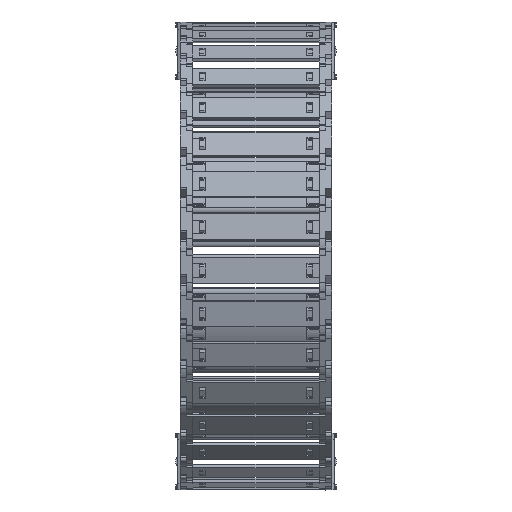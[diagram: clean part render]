
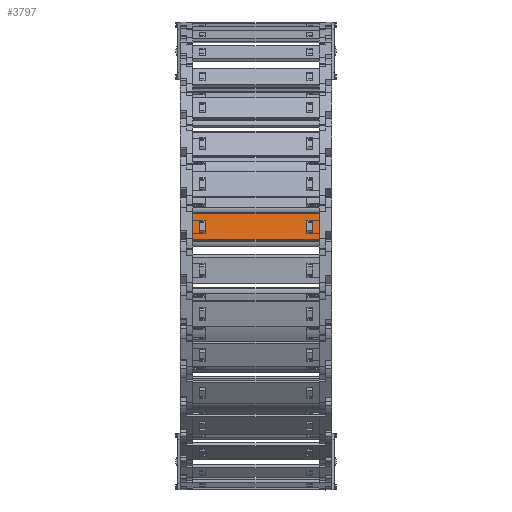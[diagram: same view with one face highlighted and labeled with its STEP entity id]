
A CAD part, top view. The second image highlights one B-rep face of the part: STEP entity #3797.
In plain terms, the highlighted planar face has unit normal (0, 0.125, 0.992) as drawn and (0, 1, 0) by its records, which use the part's own axes.
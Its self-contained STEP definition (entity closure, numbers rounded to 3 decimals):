
#2923=DIRECTION('',(0.,0.,1.));
#2924=VECTOR('',#2923,15.8);
#2925=CARTESIAN_POINT('',(62.24,1.5,-7.9));
#2926=LINE('',#2925,#2924);
#2930=DIRECTION('',(-1.,0.,0.));
#2931=VECTOR('',#2930,77.);
#2932=CARTESIAN_POINT('',(62.24,1.5,7.9));
#2933=LINE('',#2932,#2931);
#2937=DIRECTION('',(0.,0.,-1.));
#2938=VECTOR('',#2937,15.8);
#2939=CARTESIAN_POINT('',(-14.76,1.5,7.9));
#2940=LINE('',#2939,#2938);
#2944=DIRECTION('',(1.,0.,0.));
#2945=VECTOR('',#2944,3.648);
#2946=CARTESIAN_POINT('',(54.622,1.5,4.075));
#2947=LINE('',#2946,#2945);
#2951=DIRECTION('',(0.,0.,-1.));
#2952=VECTOR('',#2951,8.15);
#2953=CARTESIAN_POINT('',(58.27,1.5,4.075));
#2954=LINE('',#2953,#2952);
#2958=DIRECTION('',(-1.,0.,0.));
#2959=VECTOR('',#2958,3.648);
#2960=CARTESIAN_POINT('',(58.27,1.5,-4.075));
#2961=LINE('',#2960,#2959);
#2965=DIRECTION('',(0.,0.,-1.));
#2966=VECTOR('',#2965,8.15);
#2967=CARTESIAN_POINT('',(-7.142,1.5,4.075));
#2968=LINE('',#2967,#2966);
#2972=DIRECTION('',(-1.,0.,0.));
#2973=VECTOR('',#2972,3.648);
#2974=CARTESIAN_POINT('',(-7.142,1.5,-4.075));
#2975=LINE('',#2974,#2973);
#2979=DIRECTION('',(0.,0.,1.));
#2980=VECTOR('',#2979,8.15);
#2981=CARTESIAN_POINT('',(-10.79,1.5,-4.075));
#2982=LINE('',#2981,#2980);
#2986=DIRECTION('',(1.,0.,0.));
#2987=VECTOR('',#2986,3.648);
#2988=CARTESIAN_POINT('',(-10.79,1.5,4.075));
#2989=LINE('',#2988,#2987);
#3000=DIRECTION('',(-1.,0.,0.));
#3001=VECTOR('',#3000,77.);
#3002=CARTESIAN_POINT('',(62.24,1.5,-7.9));
#3003=LINE('',#3002,#3001);
#3208=DIRECTION('',(0.,0.,-1.));
#3209=VECTOR('',#3208,8.15);
#3210=CARTESIAN_POINT('',(54.622,1.5,4.075));
#3211=LINE('',#3210,#3209);
#3507=CARTESIAN_POINT('',(58.27,1.5,4.075));
#3508=VERTEX_POINT('',#3507);
#3509=CARTESIAN_POINT('',(54.622,1.5,4.075));
#3510=VERTEX_POINT('',#3509);
#3551=CARTESIAN_POINT('',(54.622,1.5,-4.075));
#3552=VERTEX_POINT('',#3551);
#3553=CARTESIAN_POINT('',(58.27,1.5,-4.075));
#3554=VERTEX_POINT('',#3553);
#3555=CARTESIAN_POINT('',(62.24,1.5,7.9));
#3557=VERTEX_POINT('',#3555);
#3559=CARTESIAN_POINT('',(62.24,1.5,-7.9));
#3560=VERTEX_POINT('',#3559);
#3583=CARTESIAN_POINT('',(-7.142,1.5,4.075));
#3584=CARTESIAN_POINT('',(-7.142,1.5,-4.075));
#3585=VERTEX_POINT('',#3583);
#3586=VERTEX_POINT('',#3584);
#3587=CARTESIAN_POINT('',(-10.79,1.5,-4.075));
#3588=VERTEX_POINT('',#3587);
#3589=CARTESIAN_POINT('',(-10.79,1.5,4.075));
#3590=VERTEX_POINT('',#3589);
#3591=CARTESIAN_POINT('',(-14.76,1.5,7.9));
#3592=VERTEX_POINT('',#3591);
#3595=CARTESIAN_POINT('',(-14.76,1.5,-7.9));
#3596=VERTEX_POINT('',#3595);
#3766=CARTESIAN_POINT('',(93.98,1.5,10.061));
#3767=DIRECTION('',(0.,-1.,0.));
#3768=DIRECTION('',(0.,0.,-1.));
#3769=AXIS2_PLACEMENT_3D('',#3766,#3767,#3768);
#3770=PLANE('',#3769);
#3771=ORIENTED_EDGE('',*,*,#3669,.T.);
#3772=ORIENTED_EDGE('',*,*,#3707,.T.);
#3773=ORIENTED_EDGE('',*,*,#3732,.T.);
#3775=ORIENTED_EDGE('',*,*,#3774,.F.);
#3776=EDGE_LOOP('',(#3771,#3772,#3773,#3775));
#3777=FACE_OUTER_BOUND('',#3776,.F.);
#3779=ORIENTED_EDGE('',*,*,#3778,.F.);
#3780=ORIENTED_EDGE('',*,*,#3608,.T.);
#3782=ORIENTED_EDGE('',*,*,#3781,.T.);
#3784=ORIENTED_EDGE('',*,*,#3783,.T.);
#3785=EDGE_LOOP('',(#3779,#3780,#3782,#3784));
#3786=FACE_BOUND('',#3785,.F.);
#3788=ORIENTED_EDGE('',*,*,#3787,.T.);
#3790=ORIENTED_EDGE('',*,*,#3789,.T.);
#3792=ORIENTED_EDGE('',*,*,#3791,.T.);
#3794=ORIENTED_EDGE('',*,*,#3793,.T.);
#3795=EDGE_LOOP('',(#3788,#3790,#3792,#3794));
#3796=FACE_BOUND('',#3795,.F.);
#3797=ADVANCED_FACE('',(#3777,#3786,#3796),#3770,.F.);
#3608=EDGE_CURVE('',#3510,#3508,#2947,.T.);
#3669=EDGE_CURVE('',#3560,#3557,#2926,.T.);
#3707=EDGE_CURVE('',#3557,#3592,#2933,.T.);
#3732=EDGE_CURVE('',#3592,#3596,#2940,.T.);
#3774=EDGE_CURVE('',#3560,#3596,#3003,.T.);
#3778=EDGE_CURVE('',#3510,#3552,#3211,.T.);
#3781=EDGE_CURVE('',#3508,#3554,#2954,.T.);
#3783=EDGE_CURVE('',#3554,#3552,#2961,.T.);
#3787=EDGE_CURVE('',#3585,#3586,#2968,.T.);
#3789=EDGE_CURVE('',#3586,#3588,#2975,.T.);
#3791=EDGE_CURVE('',#3588,#3590,#2982,.T.);
#3793=EDGE_CURVE('',#3590,#3585,#2989,.T.);
